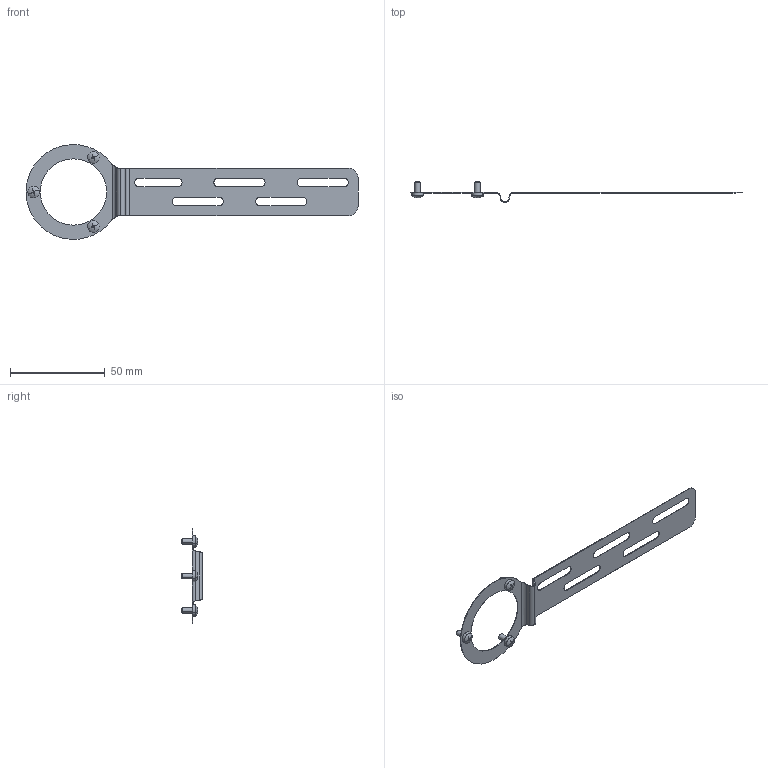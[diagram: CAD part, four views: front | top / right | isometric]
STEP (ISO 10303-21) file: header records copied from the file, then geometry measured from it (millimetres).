
FILE_DESCRIPTION (( 'STEP AP214' ), '1' );
FILE_NAME ('8.0010.4047.00FS.STEP', '2014-11-06T13:47:48', ( 'admin' ), ( 'Microsoft' ), 'SwSTEP 2.0', 'SolidWorks 2013', '' );
FILE_SCHEMA (( 'AUTOMOTIVE_DESIGN' ));
Length unit declared in the file: millimetre
Products named in the file (3): 8.0010.4047.00FS; N510361_Drehmomentstütze~2; N630099_Linsenschraube~0
Assembly tree (4 placements, depth 2):
  8.0010.4047.00FS
    N510361_Drehmomentstütze~2
    N630099_Linsenschraube~0  x3
Bounding box: 175 x 11 x 49.88 mm (x, y, z)
Volume: 1404.8 mm3; surface area: 8137.9 mm2
Topology: 4 solids, 4 shells, 122 faces, 291 edges, 180 vertices
Faces by surface type: plane 60, cylinder 44, bspline 6, cone 6, sphere 6
Entity records: 3724 total; most frequent: CARTESIAN_POINT 866, DIRECTION 437, ORIENTED_EDGE 414, EDGE_CURVE 207, AXIS2_PLACEMENT_3D 165, VERTEX_POINT 128, LINE 107, VECTOR 107
